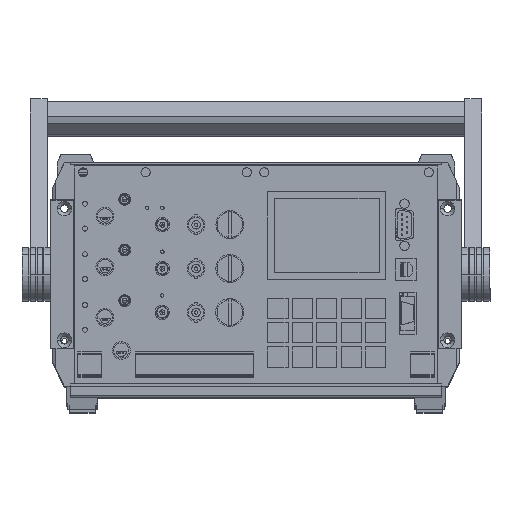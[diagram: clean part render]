
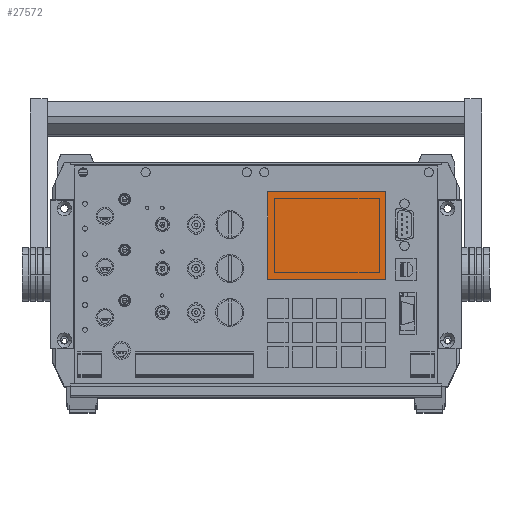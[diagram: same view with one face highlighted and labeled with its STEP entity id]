
A CAD part, top view. The second image highlights one B-rep face of the part: STEP entity #27572.
In plain terms, the highlighted planar face has unit normal (0, 0, 1).
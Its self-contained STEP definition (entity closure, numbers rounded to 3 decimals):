
#3016 = LINE ( 'NONE', #29723, #49388 ) ;
#4008 = ORIENTED_EDGE ( 'NONE', *, *, #46901, .T. ) ;
#5286 = VECTOR ( 'NONE', #7612, 1000. ) ;
#7340 = CARTESIAN_POINT ( 'NONE',  ( -6.842, -6.581, 465.95 ) ) ;
#7375 = CARTESIAN_POINT ( 'NONE',  ( -6.842, -6.581, 465.95 ) ) ;
#7612 = DIRECTION ( 'NONE',  ( 0., 1., 0. ) ) ;
#7901 = CARTESIAN_POINT ( 'NONE',  ( -76.842, 45.419, 465.95 ) ) ;
#10202 = EDGE_CURVE ( 'NONE', #19542, #47342, #46352, .T. ) ;
#10299 = EDGE_LOOP ( 'NONE', ( #19031, #30036, #37196, #4008 ) ) ;
#13041 = LINE ( 'NONE', #18980, #62119 ) ;
#16428 = DIRECTION ( 'NONE',  ( 0., 0., 1. ) ) ;
#18980 = CARTESIAN_POINT ( 'NONE',  ( -6.842, 45.419, 465.95 ) ) ;
#19031 = ORIENTED_EDGE ( 'NONE', *, *, #69555, .T. ) ;
#19349 = CARTESIAN_POINT ( 'NONE',  ( -76.842, -6.581, 465.95 ) ) ;
#19542 = VERTEX_POINT ( 'NONE', #7340 ) ;
#19748 = LINE ( 'NONE', #19349, #63495 ) ;
#27572 = ADVANCED_FACE ( 'NONE', ( #35756 ), #28863, .T. ) ;
#28863 = PLANE ( 'NONE',  #61069 ) ;
#29723 = CARTESIAN_POINT ( 'NONE',  ( -76.842, 45.419, 465.95 ) ) ;
#30036 = ORIENTED_EDGE ( 'NONE', *, *, #40171, .T. ) ;
#30598 = CARTESIAN_POINT ( 'NONE',  ( -6.842, 45.419, 465.95 ) ) ;
#33636 = DIRECTION ( 'NONE',  ( 1., 0., 0. ) ) ;
#34985 = VERTEX_POINT ( 'NONE', #42374 ) ;
#35756 = FACE_OUTER_BOUND ( 'NONE', #10299, .T. ) ;
#37196 = ORIENTED_EDGE ( 'NONE', *, *, #10202, .T. ) ;
#40171 = EDGE_CURVE ( 'NONE', #34985, #19542, #19748, .T. ) ;
#41843 = DIRECTION ( 'NONE',  ( 1., 0., 0. ) ) ;
#41992 = DIRECTION ( 'NONE',  ( 0., -1., 0. ) ) ;
#42374 = CARTESIAN_POINT ( 'NONE',  ( -76.842, -6.581, 465.95 ) ) ;
#46352 = LINE ( 'NONE', #7375, #5286 ) ;
#46901 = EDGE_CURVE ( 'NONE', #47342, #61010, #13041, .T. ) ;
#47342 = VERTEX_POINT ( 'NONE', #30598 ) ;
#49388 = VECTOR ( 'NONE', #41992, 1000. ) ;
#50638 = CARTESIAN_POINT ( 'NONE',  ( -2242.726, -1114.694, 465.95 ) ) ;
#61010 = VERTEX_POINT ( 'NONE', #7901 ) ;
#61069 = AXIS2_PLACEMENT_3D ( 'NONE', #50638, #16428, #33636 ) ;
#62119 = VECTOR ( 'NONE', #65310, 1000. ) ;
#63495 = VECTOR ( 'NONE', #41843, 1000. ) ;
#65310 = DIRECTION ( 'NONE',  ( -1., 0., 0. ) ) ;
#69555 = EDGE_CURVE ( 'NONE', #61010, #34985, #3016, .T. ) ;
